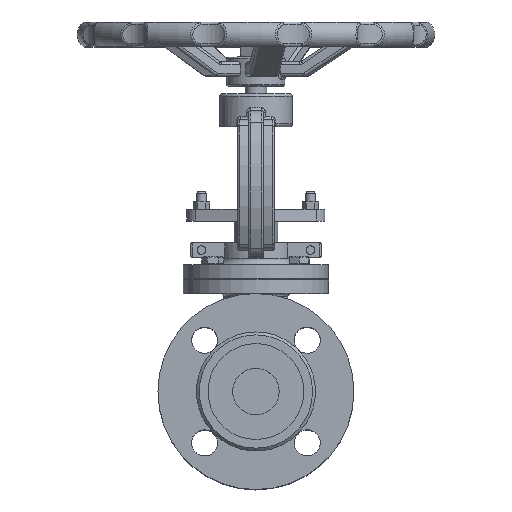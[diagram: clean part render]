
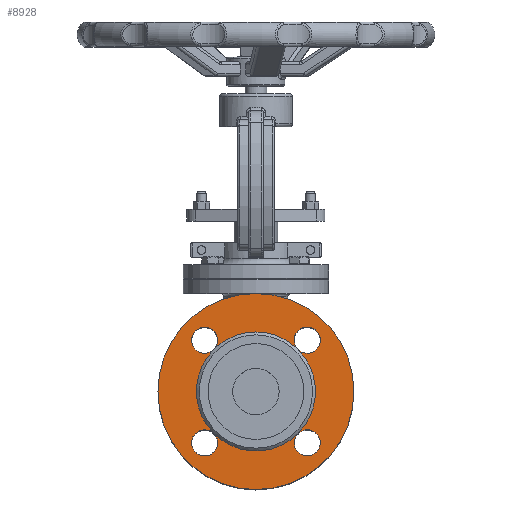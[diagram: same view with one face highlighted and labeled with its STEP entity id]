
A CAD part, top view. The second image highlights one B-rep face of the part: STEP entity #8928.
In plain terms, the highlighted planar face has unit normal (0, 0, 1).
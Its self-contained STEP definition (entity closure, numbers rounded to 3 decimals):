
#8928=ADVANCED_FACE('',(#18023,#18025,#18027,#18029,#18031,#18033),#18035,.F.);
#18023=FACE_BOUND('',#18024,.T.);
#18024=EDGE_LOOP('',(#24311));
#18025=FACE_BOUND('',#18026,.T.);
#18026=EDGE_LOOP('',(#24312));
#18027=FACE_BOUND('',#18028,.T.);
#18028=EDGE_LOOP('',(#24313));
#18029=FACE_BOUND('',#18030,.T.);
#18030=EDGE_LOOP('',(#24314));
#18031=FACE_BOUND('',#18032,.T.);
#18032=EDGE_LOOP('',(#24315));
#18033=FACE_BOUND('',#18034,.T.);
#18034=EDGE_LOOP('',(#24316));
#18035=PLANE('',#18036);
#18036=AXIS2_PLACEMENT_3D('',#18037,#18038,#18039);
#18037=CARTESIAN_POINT('',(0.,0.,88.));
#18038=DIRECTION('',(0.,0.,-1.));
#18039=DIRECTION('',(0.,1.,0.));
#24311=ORIENTED_EDGE('',*,*,#26755,.T.);
#24312=ORIENTED_EDGE('',*,*,#26868,.F.);
#24313=ORIENTED_EDGE('',*,*,#26759,.T.);
#24314=ORIENTED_EDGE('',*,*,#26758,.T.);
#24315=ORIENTED_EDGE('',*,*,#26757,.T.);
#24316=ORIENTED_EDGE('',*,*,#26756,.T.);
#26755=EDGE_CURVE('',#30576,#30576,#30577,.T.);
#26756=EDGE_CURVE('',#30578,#30578,#30579,.T.);
#26757=EDGE_CURVE('',#30580,#30580,#30581,.T.);
#26758=EDGE_CURVE('',#30582,#30582,#30583,.T.);
#26759=EDGE_CURVE('',#30584,#30584,#30585,.T.);
#26868=EDGE_CURVE('',#30696,#30696,#30697,.T.);
#30576=VERTEX_POINT('',#57754);
#30577=CIRCLE('',#57755,67.5);
#30578=VERTEX_POINT('',#57759);
#30579=CIRCLE('',#57760,9.);
#30580=VERTEX_POINT('',#57764);
#30581=CIRCLE('',#57765,9.);
#30582=VERTEX_POINT('',#57769);
#30583=CIRCLE('',#57770,9.);
#30584=VERTEX_POINT('',#57774);
#30585=CIRCLE('',#57775,9.);
#30696=VERTEX_POINT('',#65363);
#30697=CIRCLE('',#65364,41.);
#57754=CARTESIAN_POINT('',(0.,67.5,88.));
#57755=AXIS2_PLACEMENT_3D('',#57756,#57757,#57758);
#57756=CARTESIAN_POINT('',(0.,0.,88.));
#57757=DIRECTION('',(0.,0.,1.));
#57758=DIRECTION('',(0.,1.,0.));
#57759=CARTESIAN_POINT('',(35.355,-26.355,88.));
#57760=AXIS2_PLACEMENT_3D('',#57761,#57762,#57763);
#57761=CARTESIAN_POINT('',(35.355,-35.355,88.));
#57762=DIRECTION('',(0.,0.,-1.));
#57763=DIRECTION('',(0.,1.,0.));
#57764=CARTESIAN_POINT('',(-35.355,26.355,88.));
#57765=AXIS2_PLACEMENT_3D('',#57766,#57767,#57768);
#57766=CARTESIAN_POINT('',(-35.355,35.355,88.));
#57767=DIRECTION('',(0.,0.,-1.));
#57768=DIRECTION('',(0.,-1.,0.));
#57769=CARTESIAN_POINT('',(26.355,35.355,88.));
#57770=AXIS2_PLACEMENT_3D('',#57771,#57772,#57773);
#57771=CARTESIAN_POINT('',(35.355,35.355,88.));
#57772=DIRECTION('',(0.,0.,-1.));
#57773=DIRECTION('',(-1.,0.,0.));
#57774=CARTESIAN_POINT('',(-26.355,-35.355,88.));
#57775=AXIS2_PLACEMENT_3D('',#57776,#57777,#57778);
#57776=CARTESIAN_POINT('',(-35.355,-35.355,88.));
#57777=DIRECTION('',(0.,0.,-1.));
#57778=DIRECTION('',(1.,0.,0.));
#65363=CARTESIAN_POINT('',(0.,41.,88.));
#65364=AXIS2_PLACEMENT_3D('',#65365,#65366,#65367);
#65365=CARTESIAN_POINT('',(0.,0.,88.));
#65366=DIRECTION('',(0.,0.,1.));
#65367=DIRECTION('',(0.,1.,0.));
